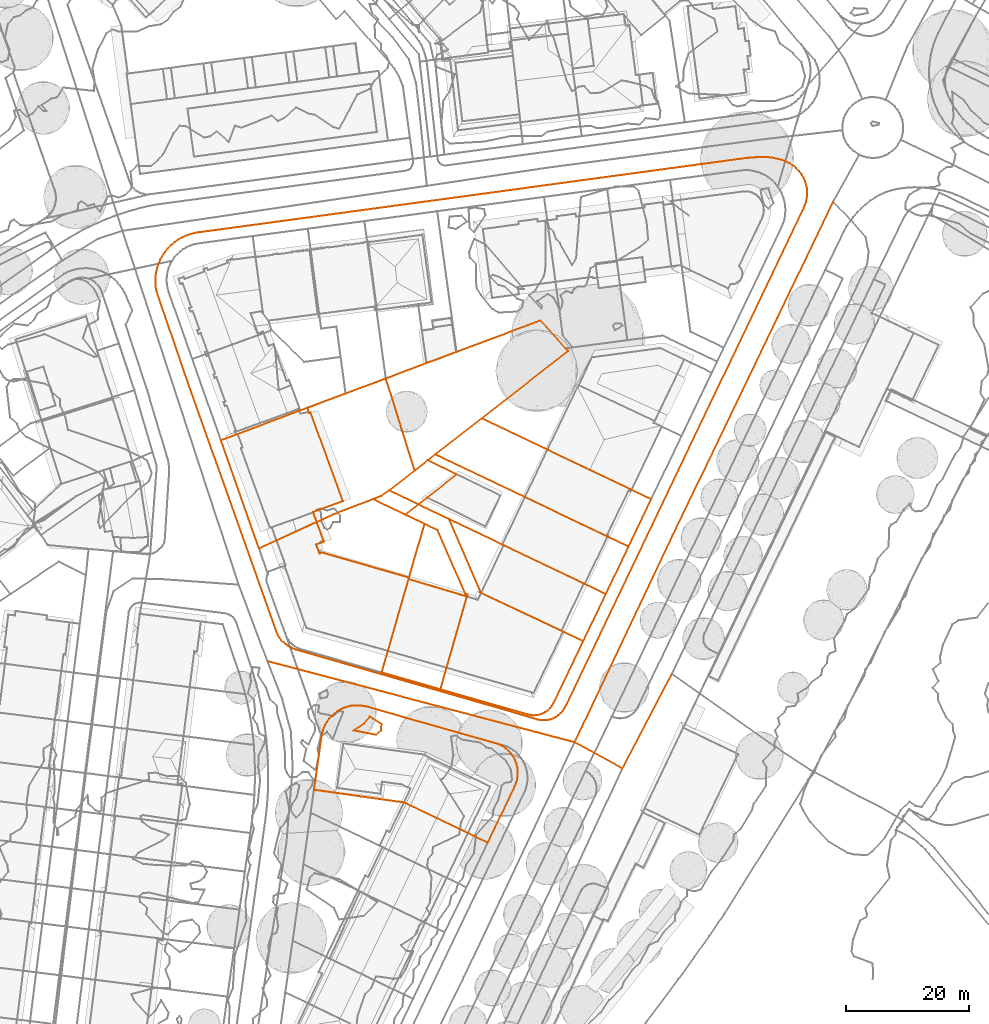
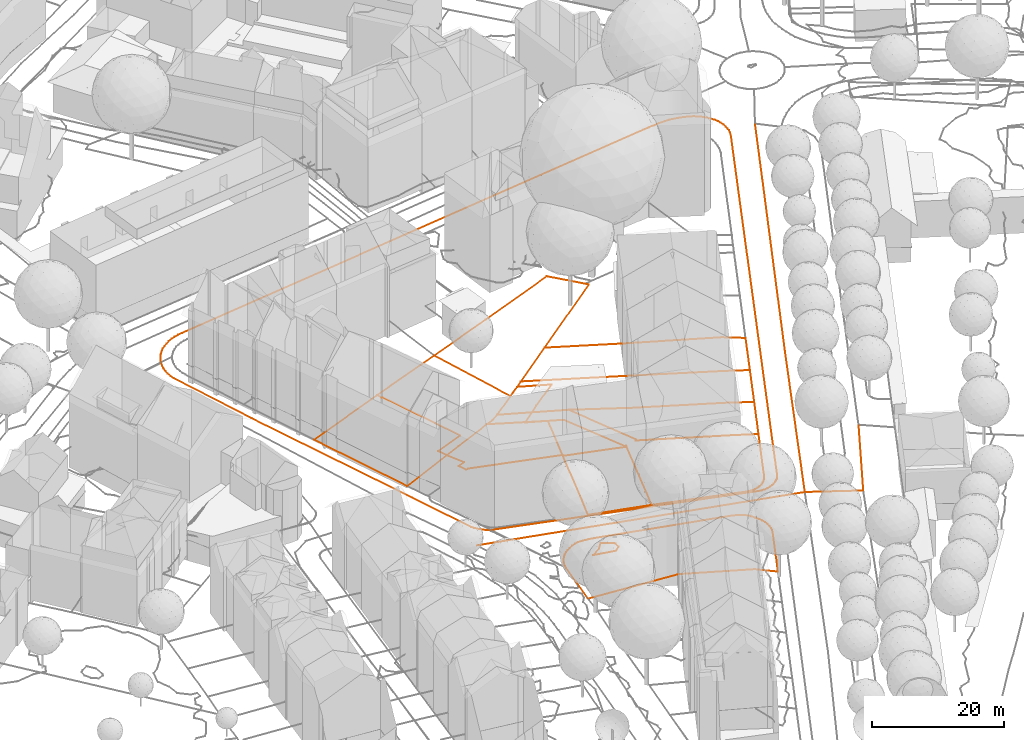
# Not in any storey, part 130 of 494: 14 proxies.
"""IFC2X3 model written with IfcOpenShell, lengths in metres."""

from ifc_helpers import new_model, entity, si_unit, frame, origin_with_axes, place, context, subcontext, project, element, save


model = new_model("IFC2X3")

# Units and contexts
model_context = context("Model", 3, precision=1e-05, world=origin_with_axes())
body_context = subcontext(model_context, "Body", "Model", "MODEL_VIEW")
ifc_project = project(units=[si_unit("AREAUNIT", "SQUARE_METRE"), si_unit("LENGTHUNIT", "METRE")], contexts=[model_context])

# Proxies
proxy_1_placement = place(None, frame((486.0007320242, 102.4397400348, 501.884), z_axis=(0.0, 0.0, 1.0), x_axis=(1.0, 0.0, 0.0)))
element("IfcBuildingElementProxy", 1, at=proxy_1_placement, Name="Road 95", ObjectType="NOTDEFINED", context=body_context, shape_type="GeometricCurveSet", body=[
    entity("IfcGeometricCurveSet", [entity("IfcPolyline", [entity("IfcCartesianPoint", [0.0, 0.0, 0.0]), entity("IfcCartesianPoint", [50.0730000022, -13.2149995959, 0.4])])]),
])
proxy_2_placement = place(None, frame((536.0737320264, 89.2247404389, 502.284), z_axis=(0.0, 0.0, 1.0), x_axis=(1.0, 0.0, 0.0)))
element("IfcBuildingElementProxy", 2, at=proxy_2_placement, Name="Road 116", ObjectType="NOTDEFINED", context=body_context, shape_type="GeometricCurveSet", body=[
    entity("IfcGeometricCurveSet", [entity("IfcPolyline", [entity("IfcCartesianPoint", [0.0, 0.0, 0.0]), entity("IfcCartesianPoint", [7.7829999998, -4.2589998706, 0.131])])]),
])
proxy_3_placement = place(None, frame((536.0737320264, 89.2247404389, 502.284), z_axis=(0.0, 0.0, 1.0), x_axis=(1.0, 0.0, 0.0)))
element("IfcBuildingElementProxy", 3, at=proxy_3_placement, Name="Road 178", ObjectType="NOTDEFINED", context=body_context, shape_type="GeometricCurveSet", body=[
    entity("IfcGeometricCurveSet", [entity("IfcPolyline", [entity("IfcCartesianPoint", [42.1679999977, 88.1909973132, 0.059]), entity("IfcCartesianPoint", [37.7239999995, 78.9209975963, 0.035]), entity("IfcCartesianPoint", [33.0399999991, 69.1619978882, -0.02]), entity("IfcCartesianPoint", [16.0069999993, 33.7739989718, 0.026]), entity("IfcCartesianPoint", [0.0, 0.0, 0.0])])]),
])
proxy_4_placement = place(None, frame((543.8567320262, 84.9657405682, 502.415), z_axis=(0.0, 0.0, 1.0), x_axis=(1.0, 0.0, 0.0)))
element("IfcBuildingElementProxy", 4, at=proxy_4_placement, Name="Road 179", ObjectType="NOTDEFINED", context=body_context, shape_type="GeometricCurveSet", body=[
    entity("IfcGeometricCurveSet", [entity("IfcPolyline", [entity("IfcCartesianPoint", [8.0769999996, 15.4189995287, 0.01]), entity("IfcCartesianPoint", [0.0, 0.0, 0.0])])]),
])
proxy_5_placement = place(None, frame((467.7097320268, 164.3667160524, 502.6209648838), z_axis=(0.0, 0.0, 1.0), x_axis=(1.0, 0.0, 0.0)))
element("IfcBuildingElementProxy", 5, at=proxy_5_placement, Name="Roads Outline 81", ObjectType="NOTDEFINED", context=body_context, shape_type="GeometricCurveSet", body=[
    entity("IfcGeometricCurveSet", [entity("IfcPolyline", [entity("IfcCartesianPoint", [0.1549999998, -1.4720000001, -0.0252239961]), entity("IfcCartesianPoint", [0.0430000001, -0.7390000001, -0.0238743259]), entity("IfcCartesianPoint", [0.0, 0.0, 0.0]), entity("IfcCartesianPoint", [0.0249999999, 0.7409999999, 0.01295003]), entity("IfcCartesianPoint", [0.1189999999, 1.476, 0.0182284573]), entity("IfcCartesianPoint", [0.281, 2.199, 0.0380477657]), entity("IfcCartesianPoint", [0.5090000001, 2.9040000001, 0.0513715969]), entity("IfcCartesianPoint", [0.7999999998, 3.581, 0.0534216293]), entity("IfcCartesianPoint", [1.1519999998, 4.2280000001, 0.0612893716]), entity("IfcCartesianPoint", [1.5619999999, 4.8400000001, 0.0698057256]), entity("IfcCartesianPoint", [2.0260000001, 5.412, 0.0792129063]), entity("IfcCartesianPoint", [2.5419999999, 5.9380000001, 0.1052891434]), entity("IfcCartesianPoint", [3.1039999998, 6.415, 0.1172328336]), entity("IfcCartesianPoint", [3.7069999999, 6.838, 0.1322081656]), entity("IfcCartesianPoint", [4.3470000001, 7.203, 0.1475983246]), entity("IfcCartesianPoint", [5.0180000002, 7.5079999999, 0.1507389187]), entity("IfcCartesianPoint", [5.7140000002, 7.7490000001, 0.1546460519]), entity("IfcCartesianPoint", [6.429, 7.925, 0.1613169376]), entity("IfcCartesianPoint", [7.1579999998, 8.0349999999, 0.1651683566]), entity("IfcCartesianPoint", [94.9440000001, 19.956, -0.0934884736]), entity("IfcCartesianPoint", [95.8849999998, 20.078, -0.1085038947]), entity("IfcCartesianPoint", [96.8289999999, 20.1780000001, -0.1227624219]), entity("IfcCartesianPoint", [97.9019999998, 20.2609999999, -0.1301971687]), entity("IfcCartesianPoint", [98.9759999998, 20.3149999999, -0.14107147]), entity("IfcCartesianPoint", [99.7629999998, 20.2860000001, -0.1512339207]), entity("IfcCartesianPoint", [100.5449999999, 20.1969999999, -0.154085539]), entity("IfcCartesianPoint", [101.318, 20.047, -0.192847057]), entity("IfcCartesianPoint", [102.0290000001, 19.8530000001, -0.1938606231]), entity("IfcCartesianPoint", [102.7250000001, 19.6089999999, -0.187157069]), entity("IfcCartesianPoint", [103.395, 19.28, -0.1882833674]), entity("IfcCartesianPoint", [104.0269999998, 18.882, -0.2036928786]), entity("IfcCartesianPoint", [104.5260000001, 18.483, -0.2244827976]), entity("IfcCartesianPoint", [104.9729999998, 18.0279999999, -0.2320510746]), entity("IfcCartesianPoint", [105.3640000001, 17.524, -0.2371371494]), entity("IfcCartesianPoint", [105.6919999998, 16.976, -0.2445267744]), entity("IfcCartesianPoint", [105.952, 16.3929999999, -0.245156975]), entity("IfcCartesianPoint", [106.1299999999, 15.814, -0.2428721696]), entity("IfcCartesianPoint", [106.2439999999, 15.219, -0.2485088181]), entity("IfcCartesianPoint", [106.2930000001, 14.615, -0.2411613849]), entity("IfcCartesianPoint", [106.2769999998, 14.01, -0.2394679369]), entity("IfcCartesianPoint", [106.2050000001, 13.4639999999, -0.2454929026]), entity("IfcCartesianPoint", [106.0800000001, 12.9270000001, -0.2550802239]), entity("IfcCartesianPoint", [105.9029999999, 12.406, -0.2704777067]), entity("IfcCartesianPoint", [105.6749999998, 11.9040000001, -0.2828586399]), entity("IfcCartesianPoint", [66.9240000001, -69.2069999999, -0.2391291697]), entity("IfcCartesianPoint", [66.6940000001, -69.6429999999, -0.2532113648]), entity("IfcCartesianPoint", [66.412, -70.048, -0.2172489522]), entity("IfcCartesianPoint", [66.0830000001, -70.415, -0.1822309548]), entity("IfcCartesianPoint", [65.71, -70.7379999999, -0.1796139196]), entity("IfcCartesianPoint", [65.301, -71.013, -0.1936788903]), entity("IfcCartesianPoint", [64.8599999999, -71.2349999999, -0.2104915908]), entity("IfcCartesianPoint", [64.3959999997, -71.4010000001, -0.2303750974]), entity("IfcCartesianPoint", [63.8769999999, -71.513, -0.2496476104]), entity("IfcCartesianPoint", [63.3489999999, -71.5549999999, -0.2694938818]), entity("IfcCartesianPoint", [62.8190000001, -71.527, -0.2844889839]), entity("IfcCartesianPoint", [62.298, -71.429, -0.2964614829]), entity("IfcCartesianPoint", [61.7939999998, -71.2619999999, -0.3065335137]), entity("IfcCartesianPoint", [22.98, -60.044, -0.4879786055]), entity("IfcCartesianPoint", [22.466, -59.865, -0.5511688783]), entity("IfcCartesianPoint", [21.9739999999, -59.632, -0.5829956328]), entity("IfcCartesianPoint", [21.5860000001, -59.398, -0.5797414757]), entity("IfcCartesianPoint", [21.2199999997, -59.1299999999, -0.540329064]), entity("IfcCartesianPoint", [20.8789999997, -58.831, -0.5169277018]), entity("IfcCartesianPoint", [20.5279999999, -58.459, -0.5152891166]), entity("IfcCartesianPoint", [20.2169999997, -58.0519999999, -0.4932636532]), entity("IfcCartesianPoint", [19.949, -57.6159999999, -0.4888712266]), entity("IfcCartesianPoint", [5.2459999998, -16.3100000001, -0.224917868]), entity("IfcCartesianPoint", [0.1549999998, -1.4720000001, -0.0252239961])])]),
])
proxy_6_placement = place(None, frame((492.5057320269, 143.7757160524, 502.4375694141), z_axis=(0.0, 0.0, 1.0), x_axis=(1.0, 0.0, 0.0)))
element("IfcBuildingElementProxy", 6, at=proxy_6_placement, Name="Roads Outline 123", ObjectType="NOTDEFINED", context=body_context, shape_type="GeometricCurveSet", body=[
    entity("IfcGeometricCurveSet", [entity("IfcPolyline", [entity("IfcCartesianPoint", [0.0, 0.0, 0.0]), entity("IfcCartesianPoint", [6.2319999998, 2.3360000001, -0.0435554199]), entity("IfcCartesianPoint", [12.7909999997, 4.7960000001, -0.0664147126]), entity("IfcCartesianPoint", [17.4929999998, -10.223, -0.1245046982]), entity("IfcCartesianPoint", [19.625, -8.5600000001, -0.1630246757]), entity("IfcCartesianPoint", [24.3479999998, -10.861, 0.0125501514]), entity("IfcCartesianPoint", [19.4989999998, -14.6510000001, 0.0942720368]), entity("IfcCartesianPoint", [15.9469999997, -17.4280000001, -0.111177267]), entity("IfcCartesianPoint", [19.0819999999, -18.9339999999, 0.0071868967]), entity("IfcCartesianPoint", [21.2209999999, -19.9639999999, 0.0807501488]), entity("IfcCartesianPoint", [25.821, -30.4749999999, -0.021146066]), entity("IfcCartesianPoint", [26.0039999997, -30.791, -0.021520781]), entity("IfcCartesianPoint", [16.4869999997, -27.95, -0.1054980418]), entity("IfcCartesianPoint", [16.5559999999, -27.709, -0.1090400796]), entity("IfcCartesianPoint", [2.352, -23.6029999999, -0.146976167]), entity("IfcCartesianPoint", [1.977, -23.74, -0.1540491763]), entity("IfcCartesianPoint", [1.4279999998, -22.2789999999, -0.1711951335]), entity("IfcCartesianPoint", [2.6850000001, -21.821, -0.1651595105]), entity("IfcCartesianPoint", [1.5149999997, -18.6140000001, -0.4101032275]), entity("IfcCartesianPoint", [0.9199999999, -16.983, -0.4299832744]), entity("IfcCartesianPoint", [5.7859999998, -15.2069999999, -0.2964040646]), entity("IfcCartesianPoint", [0.5149999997, -0.7579999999, -0.1091367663]), entity("IfcCartesianPoint", [0.3019999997, -0.8359999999, -0.10701375]), entity("IfcCartesianPoint", [0.0, 0.0, 0.0])])]),
])
proxy_7_placement = place(None, frame((503.1777320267, 128.8807160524, 502.3097909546), z_axis=(0.0, 0.0, 1.0), x_axis=(1.0, 0.0, 0.0)))
element("IfcBuildingElementProxy", 7, at=proxy_7_placement, Name="Cadastre 131", ObjectType="NOTDEFINED", context=body_context, shape_type="GeometricCurveSet", body=[
    entity("IfcGeometricCurveSet", [entity("IfcPolyline", [entity("IfcCartesianPoint", [0.0, 0.0, 0.0]), entity("IfcCartesianPoint", [1.3100000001, 0.5110000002, 0.0026527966]), entity("IfcCartesianPoint", [2.6400000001, 1.4110000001, -0.0156806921]), entity("IfcCartesianPoint", [12.4390000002, -3.2789999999, 0.3170001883]), entity("IfcCartesianPoint", [17.5189999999, -14.97, 0.1205696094]), entity("IfcCartesianPoint", [17.3689999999, -15.1899999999, 0.1175445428]), entity("IfcCartesianPoint", [30.9819999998, -21.5989999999, 0.2557291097]), entity("IfcCartesianPoint", [34.2970000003, -23.159, 0.2119933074]), entity("IfcCartesianPoint", [29.4279999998, -33.3199999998, 0.1679477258]), entity("IfcCartesianPoint", [29.1750000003, -33.7379999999, 0.1495648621]), entity("IfcCartesianPoint", [28.8689999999, -34.118, 0.1314582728]), entity("IfcCartesianPoint", [28.5150000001, -34.4539999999, 0.1115178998]), entity("IfcCartesianPoint", [28.1189999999, -34.74, 0.0835987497]), entity("IfcCartesianPoint", [27.6890000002, -34.97, 0.0552439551]), entity("IfcCartesianPoint", [27.2250000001, -35.1339999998, 0.0322305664]), entity("IfcCartesianPoint", [26.7430000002, -35.2339999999, 0.0119480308]), entity("IfcCartesianPoint", [26.2519999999, -35.2689999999, -0.0039355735]), entity("IfcCartesianPoint", [25.7609999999, -35.237, -0.0149411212]), entity("IfcCartesianPoint", [25.2790000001, -35.1399999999, -0.0152932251]), entity("IfcCartesianPoint", [11.0010000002, -31.03, 0.0154042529]), entity("IfcCartesianPoint", [12.0070000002, -27.5109999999, 0.1370289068]), entity("IfcCartesianPoint", [15.4139999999, -15.6099999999, 0.1043375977]), entity("IfcCartesianPoint", [15.1490000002, -15.5799999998, 0.1066323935]), entity("IfcCartesianPoint", [10.5490000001, -5.0689999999, 0.2085286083]), entity("IfcCartesianPoint", [8.4100000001, -4.0389999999, 0.1349653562]), entity("IfcCartesianPoint", [0.0, 0.0, 0.0])])]),
])
proxy_8_placement = place(None, frame((478.4007320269, 138.4907160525, 502.2972193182), z_axis=(0.0, 0.0, 1.0), x_axis=(1.0, 0.0, 0.0)))
element("IfcBuildingElementProxy", 8, at=proxy_8_placement, Name="Cadastre 167", ObjectType="NOTDEFINED", context=body_context, shape_type="GeometricCurveSet", body=[
    entity("IfcGeometricCurveSet", [entity("IfcPolyline", [entity("IfcCartesianPoint", [0.0, 0.0, 0.0]), entity("IfcCartesianPoint", [20.3369999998, 7.621, 0.0967946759]), entity("IfcCartesianPoint", [26.8959999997, 10.081, 0.0739353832]), entity("IfcCartesianPoint", [38.4449999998, 14.4109999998, 0.0760838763]), entity("IfcCartesianPoint", [52.1329999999, 19.5419999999, 0.2046879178]), entity("IfcCartesianPoint", [56.2429999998, 14.9720000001, 0.1477031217]), entity("IfcCartesianPoint", [56.6229999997, 14.5519999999, 0.1369154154]), entity("IfcCartesianPoint", [42.5049999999, 3.561, 0.0313176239]), entity("IfcCartesianPoint", [34.9559999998, -2.3190000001, -0.0320751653]), entity("IfcCartesianPoint", [27.4169999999, -8.199, -0.0031090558]), entity("IfcCartesianPoint", [26.0869999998, -9.0989999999, 0.015224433]), entity("IfcCartesianPoint", [24.7769999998, -9.6100000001, 0.0125716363]), entity("IfcCartesianPoint", [18.4179999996, -12.05, -0.304310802]), entity("IfcCartesianPoint", [6.2059999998, -17.6330000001, -0.1007891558]), entity("IfcCartesianPoint", [0.0, 0.0, 0.0])])]),
])
proxy_9_placement = place(None, frame((513.3567320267, 136.1717160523, 502.265144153), z_axis=(0.0, 0.0, 1.0), x_axis=(1.0, 0.0, 0.0)))
element("IfcBuildingElementProxy", 9, at=proxy_9_placement, Name="Cadastre 168", ObjectType="NOTDEFINED", context=body_context, shape_type="GeometricCurveSet", body=[
    entity("IfcGeometricCurveSet", [entity("IfcPolyline", [entity("IfcCartesianPoint", [0.0, 0.0, 0.0]), entity("IfcCartesianPoint", [7.5490000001, 5.8800000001, 0.0633927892]), entity("IfcCartesianPoint", [18.2800000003, 0.7620000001, 0.1734179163]), entity("IfcCartesianPoint", [31.8939999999, -5.73, 0.5060948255]), entity("IfcCartesianPoint", [35.2060000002, -7.3099999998, 0.1758273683]), entity("IfcCartesianPoint", [31.5070000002, -15.0399999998, 0.1963003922]), entity("IfcCartesianPoint", [28.051, -13.3899999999, 0.2519744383]), entity("IfcCartesianPoint", [14.6099999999, -6.9739999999, 0.1587686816]), entity("IfcCartesianPoint", [0.0, 0.0, 0.0])])]),
])
proxy_10_placement = place(None, frame((505.8177320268, 130.2917160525, 502.2941102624), z_axis=(0.0, 0.0, 1.0), x_axis=(1.0, 0.0, 0.0)))
element("IfcBuildingElementProxy", 10, at=proxy_10_placement, Name="Cadastre 186", ObjectType="NOTDEFINED", context=body_context, shape_type="GeometricCurveSet", body=[
    entity("IfcGeometricCurveSet", [entity("IfcPolyline", [entity("IfcCartesianPoint", [0.0, 0.0, 0.0]), entity("IfcCartesianPoint", [7.5389999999, 5.8799999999, -0.0289661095]), entity("IfcCartesianPoint", [22.1489999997, -1.094, 0.1298025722]), entity("IfcCartesianPoint", [35.5899999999, -7.51, 0.2230083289]), entity("IfcCartesianPoint", [39.0460000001, -9.1599999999, 0.1673342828]), entity("IfcCartesianPoint", [35.3369999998, -16.8999999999, 0.2394200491]), entity("IfcCartesianPoint", [31.8870000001, -15.25, 0.3388861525]), entity("IfcCartesianPoint", [18.4679999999, -8.835, 0.1757506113]), entity("IfcCartesianPoint", [9.7990000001, -4.6899999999, 0.3326808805]), entity("IfcCartesianPoint", [0.0, 0.0, 0.0])])]),
])
proxy_11_placement = place(None, frame((515.6167320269, 125.6017160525, 502.6267911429), z_axis=(0.0, 0.0, 1.0), x_axis=(1.0, 0.0, 0.0)))
element("IfcBuildingElementProxy", 11, at=proxy_11_placement, Name="Cadastre 189", ObjectType="NOTDEFINED", context=body_context, shape_type="GeometricCurveSet", body=[
    entity("IfcGeometricCurveSet", [entity("IfcPolyline", [entity("IfcCartesianPoint", [0.0, 0.0, 0.0]), entity("IfcCartesianPoint", [8.6689999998, -4.145, -0.1569302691]), entity("IfcCartesianPoint", [22.088, -10.5600000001, 0.006205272]), entity("IfcCartesianPoint", [25.5379999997, -12.21, -0.0932608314]), entity("IfcCartesianPoint", [21.858, -19.8800000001, -0.1050068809]), entity("IfcCartesianPoint", [18.5429999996, -18.3200000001, -0.0612710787]), entity("IfcCartesianPoint", [4.9299999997, -11.9110000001, -0.1994556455]), entity("IfcCartesianPoint", [5.0799999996, -11.6910000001, -0.196430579]), entity("IfcCartesianPoint", [0.0, 0.0, 0.0])])]),
])
proxy_12_placement = place(None, frame((504.6087320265, 100.6007160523, 502.1745505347), z_axis=(0.0, 0.0, 1.0), x_axis=(1.0, 0.0, 0.0)))
element("IfcBuildingElementProxy", 12, at=proxy_12_placement, Name="Cadastre 190", ObjectType="NOTDEFINED", context=body_context, shape_type="GeometricCurveSet", body=[
    entity("IfcGeometricCurveSet", [entity("IfcPolyline", [entity("IfcCartesianPoint", [0.0, 0.0, 0.0]), entity("IfcCartesianPoint", [1.0130000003, 3.517, 0.1546277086]), entity("IfcCartesianPoint", [4.4530000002, 15.466, 0.1539787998]), entity("IfcCartesianPoint", [6.9790000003, 24.2410000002, 0.2702057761]), entity("IfcCartesianPoint", [9.1180000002, 23.2110000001, 0.3437690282]), entity("IfcCartesianPoint", [13.7180000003, 12.7000000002, 0.2418728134]), entity("IfcCartesianPoint", [13.983, 12.6700000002, 0.2395780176]), entity("IfcCartesianPoint", [10.5760000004, 0.7690000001, 0.2722693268]), entity("IfcCartesianPoint", [9.5700000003, -2.75, 0.1506446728]), entity("IfcCartesianPoint", [0.0, 0.0, 0.0])])]),
])
proxy_13_placement = place(None, frame((493.5697320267, 81.4697160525, 502.1024763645), z_axis=(0.0, 0.0, 1.0), x_axis=(1.0, 0.0, 0.0)))
element("IfcBuildingElementProxy", 13, at=proxy_13_placement, Name="Cadastre 208", ObjectType="NOTDEFINED", context=body_context, shape_type="GeometricCurveSet", body=[
    entity("IfcGeometricCurveSet", [entity("IfcPolyline", [entity("IfcCartesianPoint", [0.0, 0.0, 0.0]), entity("IfcCartesianPoint", [1.2400000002, 8.7609999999, -0.0761690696]), entity("IfcCartesianPoint", [1.361, 9.3729999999, -0.0887608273]), entity("IfcCartesianPoint", [1.5470000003, 9.9689999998, -0.1036137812]), entity("IfcCartesianPoint", [1.7949999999, 10.541, -0.143871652]), entity("IfcCartesianPoint", [2.1030000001, 11.0839999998, -0.1742964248]), entity("IfcCartesianPoint", [2.4670000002, 11.591, -0.1447416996]), entity("IfcCartesianPoint", [2.8820000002, 12.0559999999, -0.1175178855]), entity("IfcCartesianPoint", [3.3450000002, 12.4739999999, -0.1075951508]), entity("IfcCartesianPoint", [3.8500000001, 12.841, -0.1037830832]), entity("IfcCartesianPoint", [4.3910000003, 13.1509999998, -0.1002441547]), entity("IfcCartesianPoint", [4.9620000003, 13.402, -0.0517794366]), entity("IfcCartesianPoint", [5.557, 13.591, 0.0094551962]), entity("IfcCartesianPoint", [6.1680000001, 13.7149999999, -0.0021196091]), entity("IfcCartesianPoint", [6.7889999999, 13.7729999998, -0.0347172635]), entity("IfcCartesianPoint", [7.4130000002, 13.7649999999, -0.0930691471]), entity("IfcCartesianPoint", [8.0320000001, 13.6909999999, -0.0932969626]), entity("IfcCartesianPoint", [8.6400000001, 13.551, -0.0712930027]), entity("IfcCartesianPoint", [29.6180000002, 7.591, 0.4265079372]), entity("IfcCartesianPoint", [30.2030000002, 7.385, 0.4031952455]), entity("IfcCartesianPoint", [30.7579999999, 7.1069999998, 0.3982393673]), entity("IfcCartesianPoint", [31.2749999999, 6.7629999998, 0.4294908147]), entity("IfcCartesianPoint", [31.7450000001, 6.358, 0.4380839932]), entity("IfcCartesianPoint", [32.1609999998, 5.8979999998, 0.3771110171]), entity("IfcCartesianPoint", [32.517, 5.389, 0.3124173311]), entity("IfcCartesianPoint", [32.807, 4.841, 0.3205410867]), entity("IfcCartesianPoint", [33.0260000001, 4.2609999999, 0.3470584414]), entity("IfcCartesianPoint", [33.1710000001, 3.6569999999, 0.347553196]), entity("IfcCartesianPoint", [33.2409999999, 3.041, 0.3545849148]), entity("IfcCartesianPoint", [33.2340000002, 2.4199999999, 0.360210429]), entity("IfcCartesianPoint", [33.1490000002, 1.8059999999, 0.3888730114]), entity("IfcCartesianPoint", [32.9900000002, 1.206, 0.4366839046]), entity("IfcCartesianPoint", [32.7570000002, 0.6309999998, 0.3938712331]), entity("IfcCartesianPoint", [28.3370000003, -8.6190000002, 0.2985290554]), entity("IfcCartesianPoint", [25.1010000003, -7.064, 0.942408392]), entity("IfcCartesianPoint", [14.7080000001, -2.0690000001, 0.6384337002]), entity("IfcCartesianPoint", [0.0, 0.0, 0.0])])]),
])
proxy_14_placement = place(None, frame((500.0718994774, 91.1707160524, 502.0), z_axis=(0.0, 0.0, 1.0), x_axis=(1.0, 0.0, 0.0)))
element("IfcBuildingElementProxy", 14, at=proxy_14_placement, Name="Contour Line 502.0 m", ObjectType="NOTDEFINED", context=body_context, shape_type="GeometricCurveSet", body=[
    entity("IfcGeometricCurveSet", [entity("IfcPolyline", [entity("IfcCartesianPoint", [3.6058325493, -0.7298801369, 0.0]), entity("IfcCartesianPoint", [4.4208421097, 0.0, 0.0]), entity("IfcCartesianPoint", [4.5162268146, 1.0, 0.0]), entity("IfcCartesianPoint", [2.6058325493, 2.2574600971, 0.0]), entity("IfcCartesianPoint", [1.6058325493, 1.0350877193, 0.0]), entity("IfcCartesianPoint", [0.0, 0.0, 0.0]), entity("IfcCartesianPoint", [3.6058325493, -0.7298801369, 0.0])])]),
])

save(model, "model.ifc")
